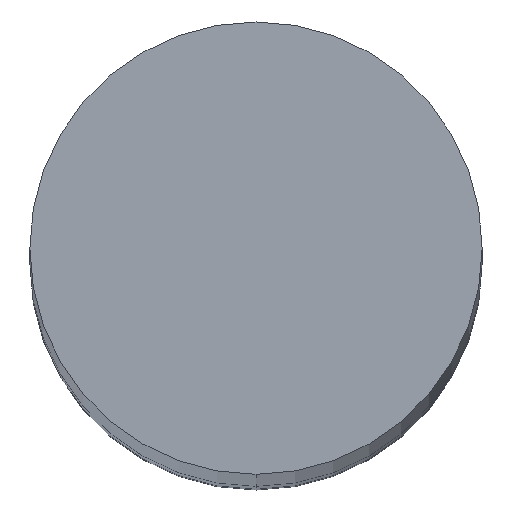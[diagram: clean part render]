
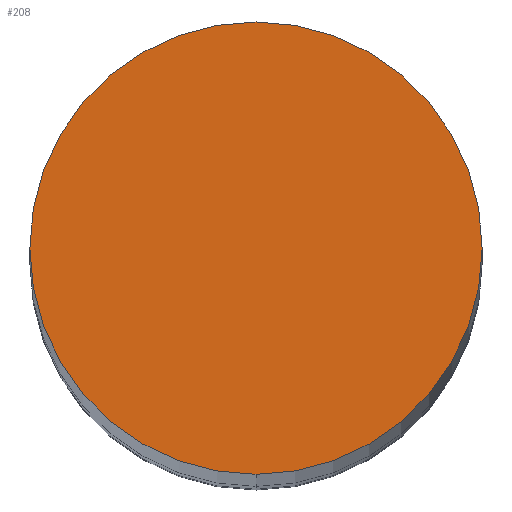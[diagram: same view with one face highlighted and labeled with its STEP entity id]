
A CAD part, top view. The second image highlights one B-rep face of the part: STEP entity #208.
In plain terms, the highlighted planar face has unit normal (0, 0, 1).
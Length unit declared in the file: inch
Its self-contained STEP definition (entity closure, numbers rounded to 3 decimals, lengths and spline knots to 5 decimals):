
#161=CARTESIAN_POINT('',(0.0,-0.0625,2.5));
#162=VERTEX_POINT('',#161);
#170=CARTESIAN_POINT('',(0.0,0.0625,2.5));
#171=VERTEX_POINT('',#170);
#178=CARTESIAN_POINT('',(0.0,0.0,2.5));
#179=DIRECTION('',(0.0,-0.0,-1.0));
#180=DIRECTION('',(0.0,1.0,-0.0));
#181=AXIS2_PLACEMENT_3D('',#178,#179,#180);
#182=CIRCLE('',#181,0.0625);
#183=EDGE_CURVE('no 1609',#171,#162,#182,.T.);
#193=CARTESIAN_POINT('',(0.0,0.0,2.5));
#194=DIRECTION('',(0.0,-0.0,-1.0));
#195=DIRECTION('',(0.0,1.0,-0.0));
#196=AXIS2_PLACEMENT_3D('',#193,#194,#195);
#197=CIRCLE('',#196,0.0625);
#198=EDGE_CURVE('no 1613',#162,#171,#197,.T.);
#199=ORIENTED_EDGE('',*,*,#198,.F.);
#200=ORIENTED_EDGE('',*,*,#183,.F.);
#201=EDGE_LOOP('',(#199,#200));
#202=FACE_OUTER_BOUND('',#201,.T.);
#203=CARTESIAN_POINT('',(0.0625,0.0,2.5));
#204=DIRECTION('',(0.0,0.0,1.0));
#205=DIRECTION('',(0.0,-1.0,0.0));
#206=AXIS2_PLACEMENT_3D('',#203,#204,#205);
#207=PLANE('',#206);
#208=ADVANCED_FACE('no 1725',(#202),#207,.T.);
